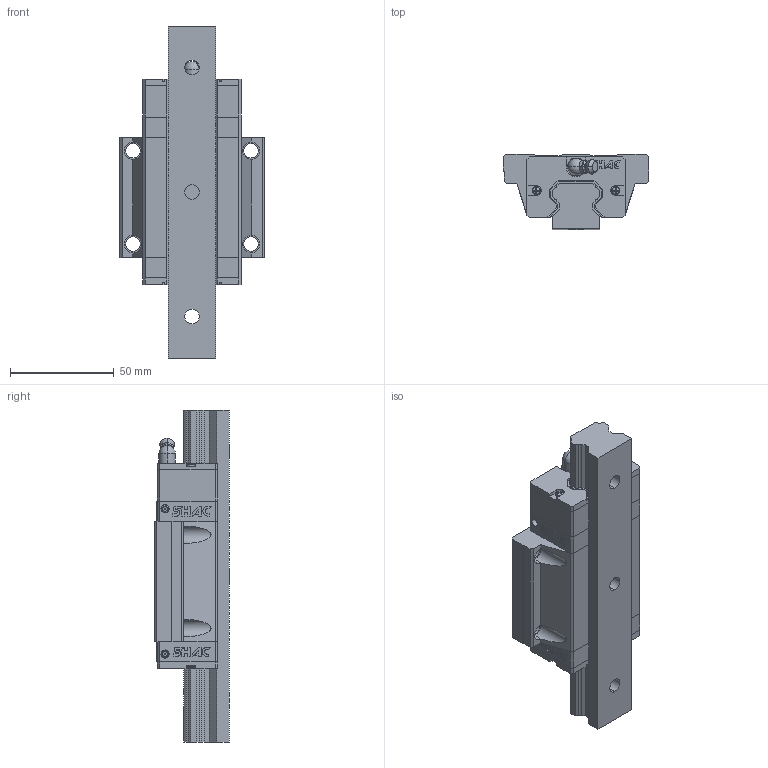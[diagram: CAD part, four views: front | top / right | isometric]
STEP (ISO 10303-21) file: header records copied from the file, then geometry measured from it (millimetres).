
FILE_DESCRIPTION (( 'STEP AP214' ), '1' );
FILE_NAME ('STP_GHW25CB_(E2)自润式_(R)上锁式_刮油片＋防尘条_1_160_160_GHW25CB_GHW25CB.step', '2020-06-27T02:30:51', ( 'IT Division' ), ( 'IT' ), 'SwSTEP 2.0', 'SolidWorks 2016', '' );
FILE_SCHEMA (( 'AUTOMOTIVE_DESIGN' ));
Length unit declared in the file: millimetre
Products named in the file (3): STP_GHW25CB_(E2)自润式_(R)上锁式_刮油片＋防尘条_1_160_160_GHW25CB_GHW25CB; STP_GHW25CB_(E2)自润式_(R)上锁式_刮油片＋防尘条_1_160_160_GHW25CB_GHW25CB_2; STP_GHW25CB_(E2)自润式_(R)上锁式_刮油片＋防尘条_1_160_160_GHW25CB_GHW25CB_1
Assembly tree (2 placements, depth 2):
  STP_GHW25CB_(E2)自润式_(R)上锁式_刮油片＋防尘条_1_160_160_GHW25CB_GHW25CB
    STP_GHW25CB_(E2)自润式_(R)上锁式_刮油片＋防尘条_1_160_160_GHW25CB_GHW25CB_1
    STP_GHW25CB_(E2)自润式_(R)上锁式_刮油片＋防尘条_1_160_160_GHW25CB_GHW25CB_2
Bounding box: 70 x 36 x 160 mm (x, y, z)
Volume: 194492 mm3; surface area: 53714.9 mm2
Topology: 8 solids, 8 shells, 859 faces, 2325 edges, 1530 vertices
Faces by surface type: plane 641, cylinder 160, torus 25, cone 23, sphere 10
Entity records: 30779 total; most frequent: CARTESIAN_POINT 4901, ORIENTED_EDGE 4642, DIRECTION 4474, EDGE_CURVE 2321, LINE 1816, VECTOR 1816, VERTEX_POINT 1528, AXIS2_PLACEMENT_3D 1329
